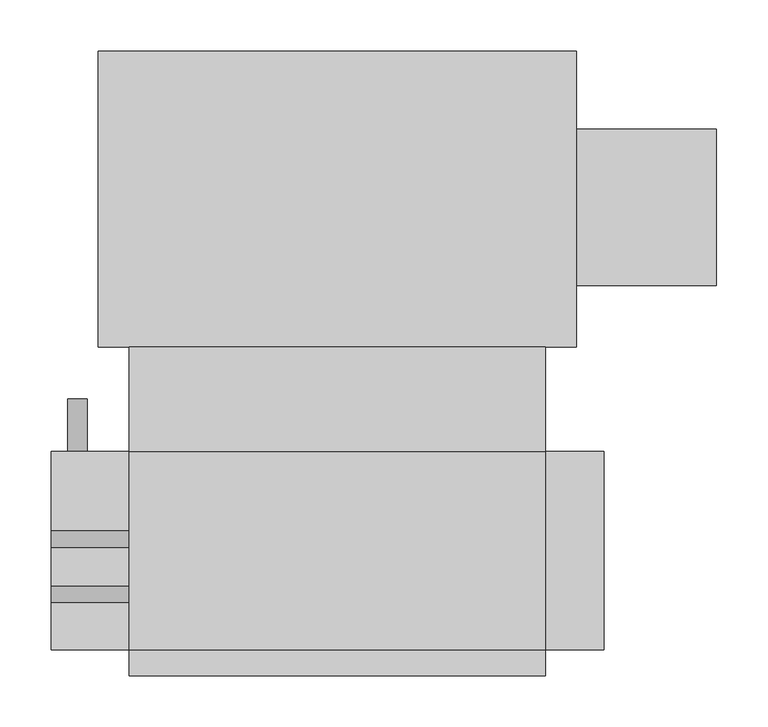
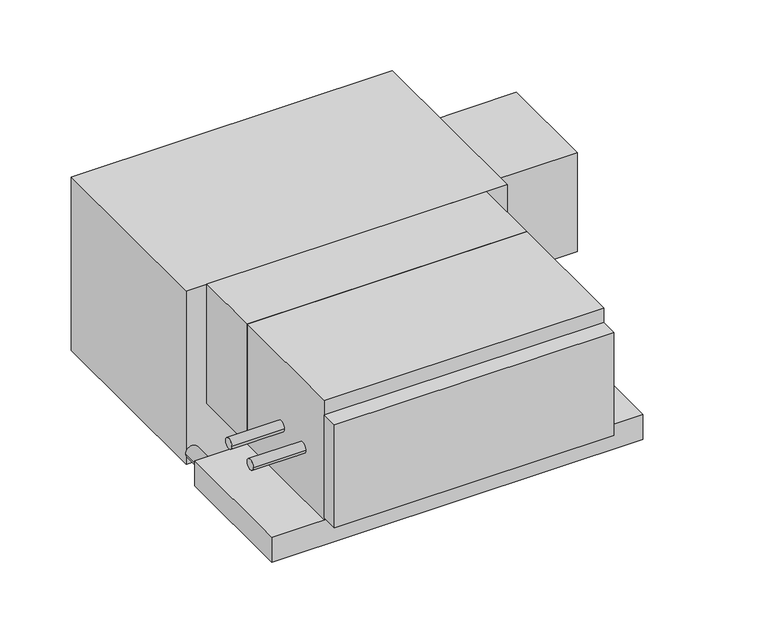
"""IFC4 building model written with IfcOpenShell, lengths in millimetres: proxy geometry, Concealed_Horizontal_Fan_Coil_Unit_With_Plenum_-_42CEA_-_CARRIER_-_2-Pipe_Cool-EHeat_LH_2022 : Size 02 - 277v/60Hz/1Ph - 4 Row 2.0kW."""

from ifc_helpers import new_model, si_unit, point, frame, frame_2d, origin, place, context, project, spatial, polyline, circle_curve, trimmed, segment, composite_curve, outline, extrude, source, transform, mapped, element, save


def mechanical_equipment_1baa1dd7(model_context):
    return source(origin(), model_context, "Body", "SweptSolid", [
        extrude(outline(composite_curve([segment(trimmed(circle_curve(frame_2d((-280.9875, -104.775)), 7.9375), [point((-288.925, -104.775))], [point((-273.05, -104.775))], False, "CARTESIAN"), True, "CONTINUOUS"), segment(trimmed(circle_curve(frame_2d((-280.9875, -104.775)), 7.9375), [point((-273.05, -104.775))], [point((-288.925, -104.775))], False, "CARTESIAN"), True, "CONTINUOUS")], self_intersect=False)), frame((-127.0, 0.0, 0.0), z_axis=(1.0, 0.0, 0.0), x_axis=(0.0, 1.0, 0.0)), (0.0, 0.0, 1.0), 76.2),
        extrude(outline(composite_curve([segment(trimmed(circle_curve(frame_2d((-227.0125, -104.775)), 7.9375), [point((-234.95, -104.775))], [point((-219.075, -104.775))], False, "CARTESIAN"), True, "CONTINUOUS"), segment(trimmed(circle_curve(frame_2d((-227.0125, -104.775)), 7.9375), [point((-219.075, -104.775))], [point((-234.95, -104.775))], False, "CARTESIAN"), True, "CONTINUOUS")], self_intersect=False)), frame((-127.0, 0.0, 0.0), z_axis=(1.0, 0.0, 0.0), x_axis=(0.0, 1.0, 0.0)), (0.0, 0.0, 1.0), 76.2),
        extrude(outline(composite_curve([segment(trimmed(circle_curve(frame_2d((-209.55, -101.6)), 9.525), [point((-209.55, -111.125))], [point((-209.55, -92.075))], False, "CARTESIAN"), True, "CONTINUOUS"), segment(trimmed(circle_curve(frame_2d((-209.55, -101.6)), 9.525), [point((-209.55, -92.075))], [point((-209.55, -111.125))], False, "CARTESIAN"), True, "CONTINUOUS")], self_intersect=False)), frame((0.0, -141.2875, 0.0), z_axis=(0.0, 1.0, 0.0), x_axis=(0.0, 0.0, 1.0)), (0.0, 0.0, 1.0), 50.8),
        extrude(outline(polyline([(-50.8, -39.6875), (355.6, -39.6875), (355.6, -141.2875), (-50.8, -141.2875), (-50.8, -39.6875)])), frame((0.0, 0.0, -184.15), z_axis=(0.0, 0.0, 1.0), x_axis=(1.0, 0.0, 0.0)), (0.0, 0.0, 1.0), 184.15),
        extrude(outline(polyline([(355.6, -360.3625), (-50.8, -360.3625), (-50.8, -334.9625), (355.6, -334.9625), (355.6, -360.3625)])), frame((0.0, 0.0, -180.975), z_axis=(0.0, 0.0, 1.0), x_axis=(1.0, 0.0, 0.0)), (0.0, 0.0, 1.0), 158.75),
        extrude(outline(polyline([(522.2875, 173.0375), (522.2875, 20.6375), (385.7625, 20.6375), (385.7625, 173.0375), (522.2875, 173.0375)])), frame((0.0, 0.0, -187.325), z_axis=(0.0, 0.0, 1.0), x_axis=(1.0, 0.0, 0.0)), (0.0, 0.0, 1.0), 152.4),
        extrude(outline(polyline([(-80.9625, 249.2375), (385.7625, 249.2375), (385.7625, -39.6875), (-80.9625, -39.6875), (-80.9625, 249.2375)])), frame((0.0, 0.0, -266.7), z_axis=(0.0, 0.0, 1.0), x_axis=(1.0, 0.0, 0.0)), (0.0, 0.0, 1.0), 266.7),
        extrude(outline(polyline([(355.6, -141.2875), (355.6, -334.9625), (-50.8, -334.9625), (-50.8, -141.2875), (355.6, -141.2875)])), frame((0.0, 0.0, -184.15), z_axis=(0.0, 0.0, 1.0), x_axis=(1.0, 0.0, 0.0)), (0.0, 0.0, 1.0), 184.15),
        extrude(outline(polyline([(412.75, -141.2875), (412.75, -334.9625), (-127.0, -334.9625), (-127.0, -141.2875), (412.75, -141.2875)])), frame((0.0, 0.0, -222.25), z_axis=(0.0, 0.0, 1.0), x_axis=(1.0, 0.0, 0.0)), (0.0, 0.0, 1.0), 38.1),
    ])


if __name__ == "__main__":
    model = new_model("IFC4")
    model_context = context("Model", 3, world=origin())
    ifc_project = project(units=[si_unit("LENGTHUNIT", "METRE", prefix="MILLI")], contexts=[model_context])
    site = spatial("IfcSite", under=ifc_project)
    building = spatial("IfcBuilding", under=site)
    placement = place(None, origin())
    mechanical_equipment_shape = mechanical_equipment_1baa1dd7(model_context)
    element("IfcBuildingElementProxy", 1, Name="Concealed_Horizontal_Fan_Coil_Unit_With_Plenum_-_42CEA_-_CARRIER_-_2-Pipe_Cool-EHeat_LH_2022 : Size 02 - 277v/60Hz/1Ph - 4 Row 2.0kW", ObjectType="Concealed_Horizontal_Fan_Coil_Unit_With_Plenum_-_42CEA_-_CARRIER_-_2-Pipe_Cool-EHeat_LH_2022 : Size 02 - 277v/60Hz/1Ph - 4 Row 2.0kW", at=placement, inside=building, context=model_context, shape_type="MappedRepresentation", body=[
        mapped(mechanical_equipment_shape, transform((0.0, 0.0, 0.0), x_axis=(1.0, 0.0, 0.0), y_axis=(0.0, 1.0, 0.0), z_axis=(0.0, 0.0, 1.0))),
    ])
    save(model, "model.ifc")
